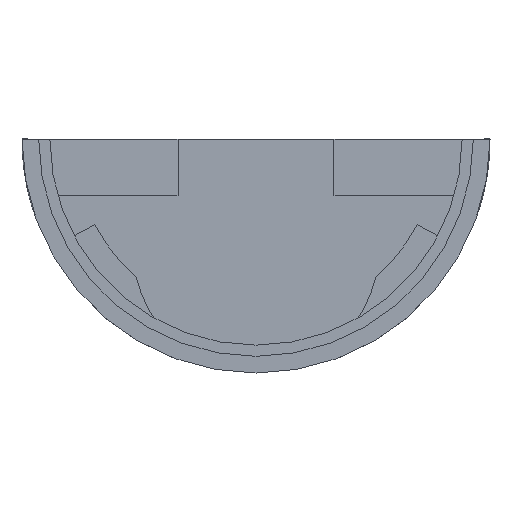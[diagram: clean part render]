
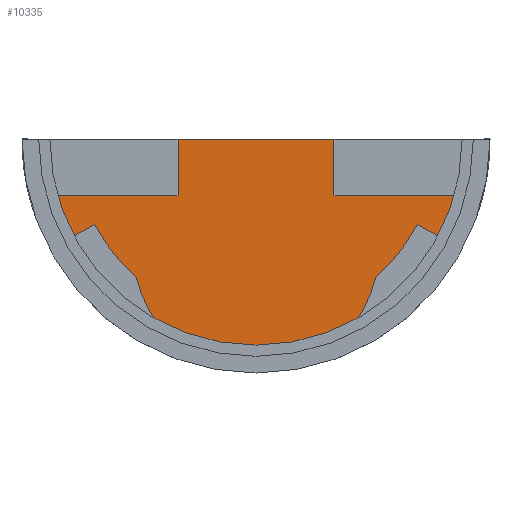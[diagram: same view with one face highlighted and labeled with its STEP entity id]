
A CAD part, left-side view. The second image highlights one B-rep face of the part: STEP entity #10335.
In plain terms, the highlighted planar face has unit normal (-1, 0, 0).
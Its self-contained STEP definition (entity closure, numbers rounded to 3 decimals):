
#1769 = PLANE('',#1770);
#1770 = AXIS2_PLACEMENT_3D('',#1771,#1772,#1773);
#1771 = CARTESIAN_POINT('',(-10.,-60.,0.));
#1772 = DIRECTION('',(0.,0.,1.));
#1773 = DIRECTION('',(1.,0.,-0.));
#1812 = VERTEX_POINT('',#1813);
#1813 = CARTESIAN_POINT('',(149.5,7.,0.));
#1826 = PLANE('',#1827);
#1827 = AXIS2_PLACEMENT_3D('',#1828,#1829,#1830);
#1828 = CARTESIAN_POINT('',(142.45,7.,-5.1));
#1829 = DIRECTION('',(-0.,1.,0.));
#1830 = DIRECTION('',(0.,0.,1.));
#1837 = EDGE_CURVE('',#1812,#1838,#1840,.T.);
#1838 = VERTEX_POINT('',#1839);
#1839 = CARTESIAN_POINT('',(149.5,-7.,0.));
#1840 = SURFACE_CURVE('',#1841,(#1845,#1851),.PCURVE_S1.);
#1841 = LINE('',#1842,#1843);
#1842 = CARTESIAN_POINT('',(149.5,-30.,0.));
#1843 = VECTOR('',#1844,1.);
#1844 = DIRECTION('',(0.,-1.,0.));
#1845 = PCURVE('',#1769,#1846);
#1846 = DEFINITIONAL_REPRESENTATION('',(#1847),#1850);
#1847 = B_SPLINE_CURVE_WITH_KNOTS('',1,(#1848,#1849),.UNSPECIFIED.,.F.,
  .F.,(2,2),(-48.821,-11.179),.PIECEWISE_BEZIER_KNOTS.);
#1848 = CARTESIAN_POINT('',(159.5,78.821));
#1849 = CARTESIAN_POINT('',(159.5,41.179));
#1850 = ( GEOMETRIC_REPRESENTATION_CONTEXT(2) 
PARAMETRIC_REPRESENTATION_CONTEXT() REPRESENTATION_CONTEXT('2D SPACE',''
  ) );
#1851 = PCURVE('',#1852,#1857);
#1852 = PLANE('',#1853);
#1853 = AXIS2_PLACEMENT_3D('',#1854,#1855,#1856);
#1854 = CARTESIAN_POINT('',(149.5,0.,0.));
#1855 = DIRECTION('',(1.,0.,0.));
#1856 = DIRECTION('',(0.,0.,-1.));
#1857 = DEFINITIONAL_REPRESENTATION('',(#1858),#1861);
#1858 = B_SPLINE_CURVE_WITH_KNOTS('',1,(#1859,#1860),.UNSPECIFIED.,.F.,
  .F.,(2,2),(-48.821,-11.179),.PIECEWISE_BEZIER_KNOTS.);
#1859 = CARTESIAN_POINT('',(0.,18.821));
#1860 = CARTESIAN_POINT('',(0.,-18.821));
#1861 = ( GEOMETRIC_REPRESENTATION_CONTEXT(2) 
PARAMETRIC_REPRESENTATION_CONTEXT() REPRESENTATION_CONTEXT('2D SPACE',''
  ) );
#1878 = PLANE('',#1879);
#1879 = AXIS2_PLACEMENT_3D('',#1880,#1881,#1882);
#1880 = CARTESIAN_POINT('',(142.45,-7.,-5.1));
#1881 = DIRECTION('',(-0.,1.,0.));
#1882 = DIRECTION('',(0.,0.,1.));
#4045 = VERTEX_POINT('',#4046);
#4046 = CARTESIAN_POINT('',(149.5,7.,-5.1));
#4060 = PLANE('',#4061);
#4061 = AXIS2_PLACEMENT_3D('',#4062,#4063,#4064);
#4062 = CARTESIAN_POINT('',(142.45,7.,-5.1));
#4063 = DIRECTION('',(0.,0.,1.));
#4064 = DIRECTION('',(1.,0.,-0.));
#4193 = EDGE_CURVE('',#4045,#1812,#4194,.T.);
#4194 = SURFACE_CURVE('',#4195,(#4199,#4205),.PCURVE_S1.);
#4195 = LINE('',#4196,#4197);
#4196 = CARTESIAN_POINT('',(149.5,7.,-2.55));
#4197 = VECTOR('',#4198,1.);
#4198 = DIRECTION('',(0.,-0.,1.));
#4199 = PCURVE('',#1826,#4200);
#4200 = DEFINITIONAL_REPRESENTATION('',(#4201),#4204);
#4201 = B_SPLINE_CURVE_WITH_KNOTS('',1,(#4202,#4203),.UNSPECIFIED.,.F.,
  .F.,(2,2),(-2.55,7.65),.PIECEWISE_BEZIER_KNOTS.);
#4202 = CARTESIAN_POINT('',(0.,7.05));
#4203 = CARTESIAN_POINT('',(10.2,7.05));
#4204 = ( GEOMETRIC_REPRESENTATION_CONTEXT(2) 
PARAMETRIC_REPRESENTATION_CONTEXT() REPRESENTATION_CONTEXT('2D SPACE',''
  ) );
#4205 = PCURVE('',#1852,#4206);
#4206 = DEFINITIONAL_REPRESENTATION('',(#4207),#4210);
#4207 = B_SPLINE_CURVE_WITH_KNOTS('',1,(#4208,#4209),.UNSPECIFIED.,.F.,
  .F.,(2,2),(-2.55,7.65),.PIECEWISE_BEZIER_KNOTS.);
#4208 = CARTESIAN_POINT('',(5.1,7.));
#4209 = CARTESIAN_POINT('',(-5.1,7.));
#4210 = ( GEOMETRIC_REPRESENTATION_CONTEXT(2) 
PARAMETRIC_REPRESENTATION_CONTEXT() REPRESENTATION_CONTEXT('2D SPACE',''
  ) );
#4275 = CYLINDRICAL_SURFACE('',#4276,19.5);
#4276 = AXIS2_PLACEMENT_3D('',#4277,#4278,#4279);
#4277 = CARTESIAN_POINT('',(19.,0.,0.));
#4278 = DIRECTION('',(1.,0.,0.));
#4279 = DIRECTION('',(0.,0.,-1.));
#4291 = VERTEX_POINT('',#4292);
#4292 = CARTESIAN_POINT('',(149.5,18.821,-5.1));
#4311 = EDGE_CURVE('',#4291,#4312,#4314,.T.);
#4312 = VERTEX_POINT('',#4313);
#4313 = CARTESIAN_POINT('',(149.5,-18.821,-5.1));
#4314 = SURFACE_CURVE('',#4315,(#4320,#4327),.PCURVE_S1.);
#4315 = CIRCLE('',#4316,19.5);
#4316 = AXIS2_PLACEMENT_3D('',#4317,#4318,#4319);
#4317 = CARTESIAN_POINT('',(149.5,0.,0.));
#4318 = DIRECTION('',(-1.,0.,0.));
#4319 = DIRECTION('',(0.,0.965,-0.262));
#4320 = PCURVE('',#4275,#4321);
#4321 = DEFINITIONAL_REPRESENTATION('',(#4322),#4326);
#4322 = LINE('',#4323,#4324);
#4323 = CARTESIAN_POINT('',(7.589,130.5));
#4324 = VECTOR('',#4325,1.);
#4325 = DIRECTION('',(-1.,-0.));
#4326 = ( GEOMETRIC_REPRESENTATION_CONTEXT(2) 
PARAMETRIC_REPRESENTATION_CONTEXT() REPRESENTATION_CONTEXT('2D SPACE',''
  ) );
#4327 = PCURVE('',#1852,#4328);
#4328 = DEFINITIONAL_REPRESENTATION('',(#4329),#4337);
#4329 = ( BOUNDED_CURVE() B_SPLINE_CURVE(2,(#4330,#4331,#4332,#4333,
#4334,#4335,#4336),.UNSPECIFIED.,.T.,.F.) B_SPLINE_CURVE_WITH_KNOTS((1,2
    ,2,2,2,1),(-2.094,0.,2.094,4.189,
6.283,8.378),.UNSPECIFIED.) CURVE() 
GEOMETRIC_REPRESENTATION_ITEM() RATIONAL_B_SPLINE_CURVE((1.,0.5,1.,0.5,
1.,0.5,1.)) REPRESENTATION_ITEM('') );
#4330 = CARTESIAN_POINT('',(5.1,18.821));
#4331 = CARTESIAN_POINT('',(37.699,9.988));
#4332 = CARTESIAN_POINT('',(13.75,-13.827));
#4333 = CARTESIAN_POINT('',(-10.2,-37.643));
#4334 = CARTESIAN_POINT('',(-18.85,-4.994));
#4335 = CARTESIAN_POINT('',(-27.499,27.655));
#4336 = CARTESIAN_POINT('',(5.1,18.821));
#4337 = ( GEOMETRIC_REPRESENTATION_CONTEXT(2) 
PARAMETRIC_REPRESENTATION_CONTEXT() REPRESENTATION_CONTEXT('2D SPACE',''
  ) );
#4354 = PLANE('',#4355);
#4355 = AXIS2_PLACEMENT_3D('',#4356,#4357,#4358);
#4356 = CARTESIAN_POINT('',(142.45,-21.,-5.1));
#4357 = DIRECTION('',(0.,0.,1.));
#4358 = DIRECTION('',(1.,0.,-0.));
#8009 = EDGE_CURVE('',#8010,#4312,#8012,.T.);
#8010 = VERTEX_POINT('',#8011);
#8011 = CARTESIAN_POINT('',(149.5,-7.,-5.1));
#8012 = SURFACE_CURVE('',#8013,(#8017,#8023),.PCURVE_S1.);
#8013 = LINE('',#8014,#8015);
#8014 = CARTESIAN_POINT('',(149.5,-10.5,-5.1));
#8015 = VECTOR('',#8016,1.);
#8016 = DIRECTION('',(0.,-1.,0.));
#8017 = PCURVE('',#4354,#8018);
#8018 = DEFINITIONAL_REPRESENTATION('',(#8019),#8022);
#8019 = B_SPLINE_CURVE_WITH_KNOTS('',1,(#8020,#8021),.UNSPECIFIED.,.F.,
  .F.,(2,2),(-3.5,8.632),.PIECEWISE_BEZIER_KNOTS.);
#8020 = CARTESIAN_POINT('',(7.05,14.));
#8021 = CARTESIAN_POINT('',(7.05,1.868));
#8022 = ( GEOMETRIC_REPRESENTATION_CONTEXT(2) 
PARAMETRIC_REPRESENTATION_CONTEXT() REPRESENTATION_CONTEXT('2D SPACE',''
  ) );
#8023 = PCURVE('',#1852,#8024);
#8024 = DEFINITIONAL_REPRESENTATION('',(#8025),#8028);
#8025 = B_SPLINE_CURVE_WITH_KNOTS('',1,(#8026,#8027),.UNSPECIFIED.,.F.,
  .F.,(2,2),(-3.5,8.632),.PIECEWISE_BEZIER_KNOTS.);
#8026 = CARTESIAN_POINT('',(5.1,-7.));
#8027 = CARTESIAN_POINT('',(5.1,-19.132));
#8028 = ( GEOMETRIC_REPRESENTATION_CONTEXT(2) 
PARAMETRIC_REPRESENTATION_CONTEXT() REPRESENTATION_CONTEXT('2D SPACE',''
  ) );
#10316 = EDGE_CURVE('',#4291,#4045,#10317,.T.);
#10317 = SURFACE_CURVE('',#10318,(#10322,#10328),.PCURVE_S1.);
#10318 = LINE('',#10319,#10320);
#10319 = CARTESIAN_POINT('',(149.5,3.5,-5.1));
#10320 = VECTOR('',#10321,1.);
#10321 = DIRECTION('',(0.,-1.,0.));
#10322 = PCURVE('',#4060,#10323);
#10323 = DEFINITIONAL_REPRESENTATION('',(#10324),#10327);
#10324 = B_SPLINE_CURVE_WITH_KNOTS('',1,(#10325,#10326),.UNSPECIFIED.,
  .F.,.F.,(2,2),(-15.632,-3.5),.PIECEWISE_BEZIER_KNOTS.);
#10325 = CARTESIAN_POINT('',(7.05,12.132));
#10326 = CARTESIAN_POINT('',(7.05,0.));
#10327 = ( GEOMETRIC_REPRESENTATION_CONTEXT(2) 
PARAMETRIC_REPRESENTATION_CONTEXT() REPRESENTATION_CONTEXT('2D SPACE',''
  ) );
#10328 = PCURVE('',#1852,#10329);
#10329 = DEFINITIONAL_REPRESENTATION('',(#10330),#10333);
#10330 = B_SPLINE_CURVE_WITH_KNOTS('',1,(#10331,#10332),.UNSPECIFIED.,
  .F.,.F.,(2,2),(-15.632,-3.5),.PIECEWISE_BEZIER_KNOTS.);
#10331 = CARTESIAN_POINT('',(5.1,19.132));
#10332 = CARTESIAN_POINT('',(5.1,7.));
#10333 = ( GEOMETRIC_REPRESENTATION_CONTEXT(2) 
PARAMETRIC_REPRESENTATION_CONTEXT() REPRESENTATION_CONTEXT('2D SPACE',''
  ) );
#10335 = ADVANCED_FACE('',(#10336),#1852,.F.);
#10336 = FACE_BOUND('',#10337,.F.);
#10337 = EDGE_LOOP('',(#10338,#10339,#10340,#10359,#10360,#10361));
#10338 = ORIENTED_EDGE('',*,*,#4193,.T.);
#10339 = ORIENTED_EDGE('',*,*,#1837,.T.);
#10340 = ORIENTED_EDGE('',*,*,#10341,.F.);
#10341 = EDGE_CURVE('',#8010,#1838,#10342,.T.);
#10342 = SURFACE_CURVE('',#10343,(#10347,#10353),.PCURVE_S1.);
#10343 = LINE('',#10344,#10345);
#10344 = CARTESIAN_POINT('',(149.5,-7.,-2.55));
#10345 = VECTOR('',#10346,1.);
#10346 = DIRECTION('',(0.,-0.,1.));
#10347 = PCURVE('',#1852,#10348);
#10348 = DEFINITIONAL_REPRESENTATION('',(#10349),#10352);
#10349 = B_SPLINE_CURVE_WITH_KNOTS('',1,(#10350,#10351),.UNSPECIFIED.,
  .F.,.F.,(2,2),(-2.55,7.65),.PIECEWISE_BEZIER_KNOTS.);
#10350 = CARTESIAN_POINT('',(5.1,-7.));
#10351 = CARTESIAN_POINT('',(-5.1,-7.));
#10352 = ( GEOMETRIC_REPRESENTATION_CONTEXT(2) 
PARAMETRIC_REPRESENTATION_CONTEXT() REPRESENTATION_CONTEXT('2D SPACE',''
  ) );
#10353 = PCURVE('',#1878,#10354);
#10354 = DEFINITIONAL_REPRESENTATION('',(#10355),#10358);
#10355 = B_SPLINE_CURVE_WITH_KNOTS('',1,(#10356,#10357),.UNSPECIFIED.,
  .F.,.F.,(2,2),(-2.55,7.65),.PIECEWISE_BEZIER_KNOTS.);
#10356 = CARTESIAN_POINT('',(0.,7.05));
#10357 = CARTESIAN_POINT('',(10.2,7.05));
#10358 = ( GEOMETRIC_REPRESENTATION_CONTEXT(2) 
PARAMETRIC_REPRESENTATION_CONTEXT() REPRESENTATION_CONTEXT('2D SPACE',''
  ) );
#10359 = ORIENTED_EDGE('',*,*,#8009,.T.);
#10360 = ORIENTED_EDGE('',*,*,#4311,.F.);
#10361 = ORIENTED_EDGE('',*,*,#10316,.T.);
